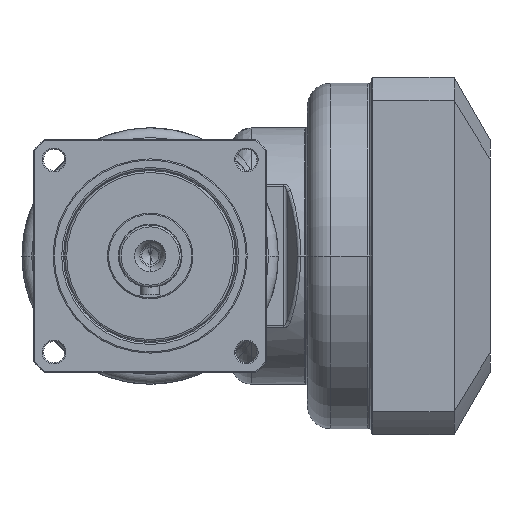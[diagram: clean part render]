
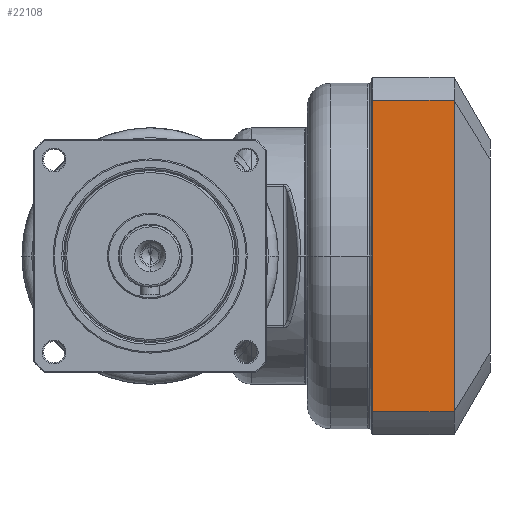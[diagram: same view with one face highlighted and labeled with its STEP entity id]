
A CAD part, left-side view. The second image highlights one B-rep face of the part: STEP entity #22108.
In plain terms, the highlighted planar face has unit normal (-1, 0, 0) as drawn and (0, -1, 0) by its records, which use the part's own axes.
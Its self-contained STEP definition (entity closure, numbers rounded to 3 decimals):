
#20871=DIRECTION('',(1.,0.,0.));
#20872=VECTOR('',#20871,80.125);
#20873=CARTESIAN_POINT('',(-40.062,-46.,23.762));
#20874=LINE('',#20873,#20872);
#20875=DIRECTION('',(0.,0.,1.));
#20876=VECTOR('',#20875,20.962);
#20877=CARTESIAN_POINT('',(40.062,-46.,
2.8));
#20878=LINE('',#20877,#20876);
#20879=DIRECTION('',(1.,0.,0.));
#20880=VECTOR('',#20879,80.125);
#20881=CARTESIAN_POINT('',(-40.062,-46.,
2.8));
#20882=LINE('',#20881,#20880);
#20883=DIRECTION('',(0.,0.,1.));
#20884=VECTOR('',#20883,20.962);
#20885=CARTESIAN_POINT('',(-40.062,-46.,
2.8));
#20886=LINE('',#20885,#20884);
#20892=CARTESIAN_POINT('',(40.062,-46.,23.762));
#21207=CARTESIAN_POINT('',(-40.062,-46.,2.8));
#21209=VERTEX_POINT('',#21207);
#21212=CARTESIAN_POINT('',(40.062,-46.,
2.8));
#21213=VERTEX_POINT('',#21212);
#21259=CARTESIAN_POINT('',(-40.062,-46.,23.762));
#21261=VERTEX_POINT('',#21259);
#21269=VERTEX_POINT('',#20892);
#22096=CARTESIAN_POINT('',(-46.,-46.,0.));
#22097=DIRECTION('',(0.,-1.,0.));
#22098=DIRECTION('',(1.,0.,0.));
#22099=AXIS2_PLACEMENT_3D('',#22096,#22097,#22098);
#22100=PLANE('',#22099);
#22102=ORIENTED_EDGE('',*,*,#22101,.T.);
#22103=ORIENTED_EDGE('',*,*,#22012,.F.);
#22104=ORIENTED_EDGE('',*,*,#22090,.F.);
#22105=ORIENTED_EDGE('',*,*,#22023,.T.);
#22106=EDGE_LOOP('',(#22102,#22103,#22104,#22105));
#22107=FACE_OUTER_BOUND('',#22106,.F.);
#22108=ADVANCED_FACE('',(#22107),#22100,.T.);
#22012=EDGE_CURVE('',#21213,#21269,#20878,.T.);
#22023=EDGE_CURVE('',#21209,#21261,#20886,.T.);
#22090=EDGE_CURVE('',#21209,#21213,#20882,.T.);
#22101=EDGE_CURVE('',#21261,#21269,#20874,.T.);
